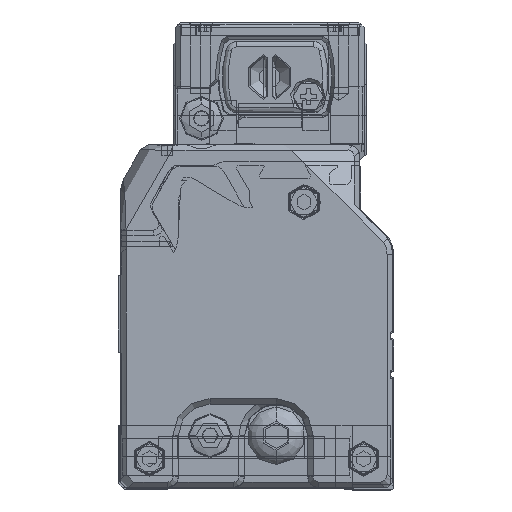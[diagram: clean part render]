
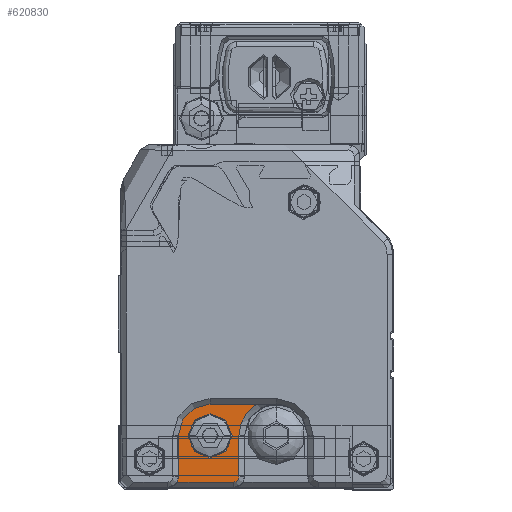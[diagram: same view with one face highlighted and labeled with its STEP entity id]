
A CAD part, left-side view. The second image highlights one B-rep face of the part: STEP entity #620830.
In plain terms, the highlighted planar face has unit normal (-1, 0, 0) as drawn and (1, 0, 0) by its records, which use the part's own axes.
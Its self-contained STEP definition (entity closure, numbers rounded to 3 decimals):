
#619930=CARTESIAN_POINT('',(9064.177,-5.938,
-12.8));
#619940=DIRECTION('',(-1.,0.,0.));
#619950=DIRECTION('',(0.,0.,-1.));
#619960=AXIS2_PLACEMENT_3D('',#619930,#619940,#619950);
#619970=PLANE('',#619960);
#619980=CARTESIAN_POINT('',(9064.177,4.212,
11.598));
#619990=DIRECTION('',(0.,-1.,0.));
#620000=VECTOR('',#619990,1.);
#620010=LINE('',#619980,#620000);
#620020=CARTESIAN_POINT('',(9064.177,8.48,
11.598));
#620030=VERTEX_POINT('',#620020);
#620040=CARTESIAN_POINT('',(9064.177,-1.788,
11.598));
#620050=VERTEX_POINT('',#620040);
#620060=EDGE_CURVE('',#620030,#620050,#620010,.T.);
#620070=ORIENTED_EDGE('',*,*,#620060,.T.);
#620080=CARTESIAN_POINT('',(9064.177,10.212,
10.598));
#620090=DIRECTION('',(-1.,0.,0.));
#620100=DIRECTION('',(0.,1.,0.));
#620110=AXIS2_PLACEMENT_3D('',#620080,#620090,#620100);
#620120=CIRCLE('',#620110,2.);
#620130=CARTESIAN_POINT('',(9064.177,8.212,
10.598));
#620140=VERTEX_POINT('',#620130);
#620150=EDGE_CURVE('',#620140,#620030,#620120,.T.);
#620160=ORIENTED_EDGE('',*,*,#620150,.T.);
#620170=CARTESIAN_POINT('',(9064.177,8.212,
3.148));
#620180=DIRECTION('',(0.,0.,1.));
#620190=VECTOR('',#620180,1.);
#620200=LINE('',#620170,#620190);
#620210=CARTESIAN_POINT('',(9064.177,8.212,
3.148));
#620220=VERTEX_POINT('',#620210);
#620230=EDGE_CURVE('',#620220,#620140,#620200,.T.);
#620240=ORIENTED_EDGE('',*,*,#620230,.T.);
#620250=CARTESIAN_POINT('',(9064.177,2.462,
3.148));
#620260=DIRECTION('',(-1.,0.,0.));
#620270=DIRECTION('',(0.,1.,0.));
#620280=AXIS2_PLACEMENT_3D('',#620250,#620260,#620270);
#620290=CIRCLE('',#620280,5.75);
#620300=CARTESIAN_POINT('',(9064.177,2.462,
-2.602));
#620310=VERTEX_POINT('',#620300);
#620320=EDGE_CURVE('',#620220,#620310,#620290,.T.);
#620330=ORIENTED_EDGE('',*,*,#620320,.F.);
#620340=CARTESIAN_POINT('',(9064.177,-5.888,
-2.602));
#620350=DIRECTION('',(0.,1.,0.));
#620360=VECTOR('',#620350,1.);
#620370=LINE('',#620340,#620360);
#620380=CARTESIAN_POINT('',(9064.177,-6.002,
-2.602));
#620390=VERTEX_POINT('',#620380);
#620400=EDGE_CURVE('',#620390,#620310,#620370,.T.);
#620410=ORIENTED_EDGE('',*,*,#620400,.T.);
#620420=CARTESIAN_POINT('',(9064.177,-9.538,
3.148));
#620430=DIRECTION('',(-1.,0.,0.));
#620440=DIRECTION('',(0.,1.,0.));
#620450=AXIS2_PLACEMENT_3D('',#620420,#620430,#620440);
#620460=CIRCLE('',#620450,6.75);
#620470=CARTESIAN_POINT('',(9064.177,-2.788,
3.148));
#620480=VERTEX_POINT('',#620470);
#620490=EDGE_CURVE('',#620480,#620390,#620460,.T.);
#620500=ORIENTED_EDGE('',*,*,#620490,.T.);
#620510=CARTESIAN_POINT('',(9064.177,-2.788,
6.873));
#620520=DIRECTION('',(0.,0.,-1.));
#620530=VECTOR('',#620520,1.);
#620540=LINE('',#620510,#620530);
#620550=CARTESIAN_POINT('',(9064.177,-2.788,
10.598));
#620560=VERTEX_POINT('',#620550);
#620570=EDGE_CURVE('',#620560,#620480,#620540,.T.);
#620580=ORIENTED_EDGE('',*,*,#620570,.T.);
#620590=CARTESIAN_POINT('',(9064.177,-1.788,
10.598));
#620600=DIRECTION('',(-1.,0.,0.));
#620610=DIRECTION('',(0.,1.,0.));
#620620=AXIS2_PLACEMENT_3D('',#620590,#620600,#620610);
#620630=CIRCLE('',#620620,1.);
#620640=EDGE_CURVE('',#620560,#620050,#620630,.T.);
#620650=ORIENTED_EDGE('',*,*,#620640,.F.);
#620660=EDGE_LOOP('',(#620650,#620580,#620500,#620410,#620330,#620240,
#620160,#620070));
#620670=FACE_OUTER_BOUND('',#620660,.T.);
#620680=CARTESIAN_POINT('',(9064.177,2.462,
3.148));
#620690=DIRECTION('',(-1.,0.,0.));
#620700=DIRECTION('',(0.,0.,-1.));
#620710=AXIS2_PLACEMENT_3D('',#620680,#620690,#620700);
#620720=CIRCLE('',#620710,4.);
#620730=CARTESIAN_POINT('',(9064.177,2.462,
7.148));
#620740=VERTEX_POINT('',#620730);
#620750=CARTESIAN_POINT('',(9064.177,2.462,
-0.852));
#620760=VERTEX_POINT('',#620750);
#620770=EDGE_CURVE('',#620740,#620760,#620720,.T.);
#620780=ORIENTED_EDGE('',*,*,#620770,.T.);
#620790=EDGE_CURVE('',#620760,#620740,#620720,.T.);
#620800=ORIENTED_EDGE('',*,*,#620790,.T.);
#620810=EDGE_LOOP('',(#620800,#620780));
#620820=FACE_BOUND('',#620810,.T.);
#620830=ADVANCED_FACE('',(#620670,#620820),#619970,.F.);
